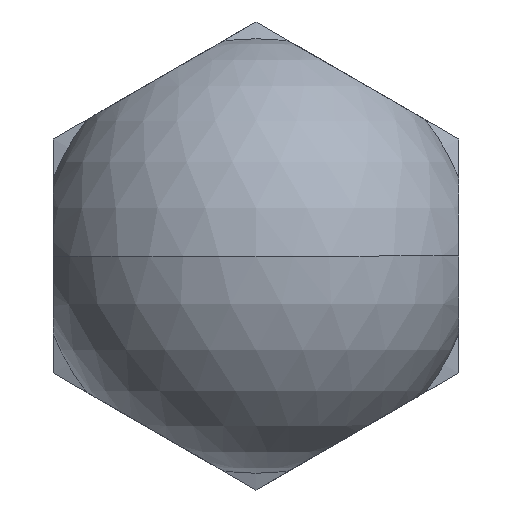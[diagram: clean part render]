
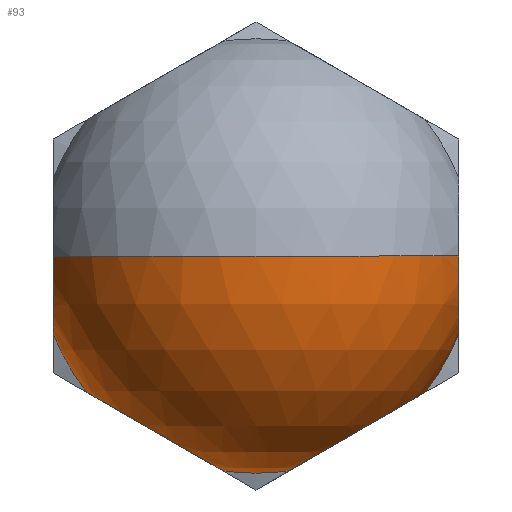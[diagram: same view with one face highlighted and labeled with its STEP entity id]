
A CAD part, front view. The second image highlights one B-rep face of the part: STEP entity #93.
In plain terms, the highlighted spherical face has radius 7.5 mm.
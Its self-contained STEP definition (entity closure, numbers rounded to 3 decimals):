
#93=ADVANCED_FACE('NONE',(#201),#202,.T.);
#201=FACE_OUTER_BOUND('',#323,.T.);
#202=SPHERICAL_SURFACE('',#324,7.5);
#323=EDGE_LOOP('',(#524,#525,#526,#527,#528,#529,#530,#531,#532,#533));
#324=AXIS2_PLACEMENT_3D('',#534,#535,#536);
#524=ORIENTED_EDGE('',*,*,#781,.F.);
#525=ORIENTED_EDGE('',*,*,#814,.T.);
#526=ORIENTED_EDGE('',*,*,#815,.F.);
#527=ORIENTED_EDGE('',*,*,#816,.T.);
#528=ORIENTED_EDGE('',*,*,#761,.T.);
#529=ORIENTED_EDGE('',*,*,#786,.F.);
#530=ORIENTED_EDGE('',*,*,#817,.T.);
#531=ORIENTED_EDGE('',*,*,#784,.F.);
#532=ORIENTED_EDGE('',*,*,#783,.F.);
#533=ORIENTED_EDGE('',*,*,#818,.T.);
#534=CARTESIAN_POINT('',(0.,-14.5,0.0));
#535=DIRECTION('',(0.0,0.0,1.0));
#536=DIRECTION('',(-1.0,0.,0.0));
#761=EDGE_CURVE('NONE',#909,#910,#911,.T.);
#781=EDGE_CURVE('',#942,#943,#944,.T.);
#783=EDGE_CURVE('',#945,#947,#948,.T.);
#784=EDGE_CURVE('',#947,#949,#950,.T.);
#786=EDGE_CURVE('',#951,#910,#953,.T.);
#814=EDGE_CURVE('NONE',#942,#996,#997,.T.);
#815=EDGE_CURVE('NONE',#998,#996,#999,.T.);
#816=EDGE_CURVE('NONE',#998,#909,#1000,.T.);
#817=EDGE_CURVE('NONE',#951,#949,#1001,.T.);
#818=EDGE_CURVE('NONE',#945,#943,#1002,.T.);
#909=VERTEX_POINT('NONE',#1142);
#910=VERTEX_POINT('',#1143);
#911=CIRCLE('',#1144,2.693);
#942=VERTEX_POINT('',#1217);
#943=VERTEX_POINT('NONE',#1218);
#944=CIRCLE('',#1219,7.5);
#945=VERTEX_POINT('NONE',#1220);
#947=VERTEX_POINT('',#1222);
#948=CIRCLE('',#1223,7.5);
#949=VERTEX_POINT('NONE',#1224);
#950=CIRCLE('',#1225,7.5);
#951=VERTEX_POINT('NONE',#1226);
#953=CIRCLE('',#1228,7.5);
#996=VERTEX_POINT('NONE',#1308);
#997=CIRCLE('',#1309,2.693);
#998=VERTEX_POINT('NONE',#1310);
#999=CIRCLE('',#1311,7.5);
#1000=CIRCLE('',#1312,7.5);
#1001=CIRCLE('',#1313,2.693);
#1002=CIRCLE('',#1314,2.693);
#1142=CARTESIAN_POINT('',(-7.0,-17.193,0.));
#1143=CARTESIAN_POINT('',(-7.0,-14.5,-2.693));
#1144=AXIS2_PLACEMENT_3D('',#1432,#1433,#1434);
#1217=CARTESIAN_POINT('',(7.0,-14.5,-2.693));
#1218=CARTESIAN_POINT('',(5.832,-14.5,-4.716));
#1219=AXIS2_PLACEMENT_3D('',#1452,#1453,#1454);
#1220=CARTESIAN_POINT('',(1.168,-14.5,-7.408));
#1222=CARTESIAN_POINT('',(0.,-14.5,-7.5));
#1223=AXIS2_PLACEMENT_3D('',#1458,#1459,#1460);
#1224=CARTESIAN_POINT('',(-1.168,-14.5,-7.408));
#1225=AXIS2_PLACEMENT_3D('',#1461,#1462,#1463);
#1226=CARTESIAN_POINT('',(-5.832,-14.5,-4.716));
#1228=AXIS2_PLACEMENT_3D('',#1467,#1468,#1469);
#1308=CARTESIAN_POINT('',(7.0,-17.193,0.));
#1309=AXIS2_PLACEMENT_3D('',#1506,#1507,#1508);
#1310=CARTESIAN_POINT('',(0.,-22.0,0.0));
#1311=AXIS2_PLACEMENT_3D('',#1509,#1510,#1511);
#1312=AXIS2_PLACEMENT_3D('',#1512,#1513,#1514);
#1313=AXIS2_PLACEMENT_3D('',#1515,#1516,#1517);
#1314=AXIS2_PLACEMENT_3D('',#1518,#1519,#1520);
#1432=CARTESIAN_POINT('',(-7.0,-14.5,0.));
#1433=DIRECTION('',(1.0,0.,0.));
#1434=DIRECTION('',(0.,-1.0,0.0));
#1452=CARTESIAN_POINT('',(0.,-14.5,0.0));
#1453=DIRECTION('',(-0.0,1.0,0.0));
#1454=DIRECTION('',(0.0,0.0,-1.0));
#1458=CARTESIAN_POINT('',(0.,-14.5,0.0));
#1459=DIRECTION('',(-0.0,1.0,0.0));
#1460=DIRECTION('',(0.0,0.0,-1.0));
#1461=CARTESIAN_POINT('',(0.,-14.5,0.0));
#1462=DIRECTION('',(-0.0,1.0,0.0));
#1463=DIRECTION('',(0.0,0.0,-1.0));
#1467=CARTESIAN_POINT('',(0.,-14.5,0.0));
#1468=DIRECTION('',(-0.0,1.0,0.0));
#1469=DIRECTION('',(0.0,0.0,-1.0));
#1506=CARTESIAN_POINT('',(7.0,-14.5,0.));
#1507=DIRECTION('',(-1.0,0.,0.));
#1508=DIRECTION('',(0.,1.0,0.0));
#1509=CARTESIAN_POINT('',(0.,-14.5,0.0));
#1510=DIRECTION('',(0.,0.,1.0));
#1511=DIRECTION('',(1.0,0.0,0.));
#1512=CARTESIAN_POINT('',(0.,-14.5,0.0));
#1513=DIRECTION('',(0.0,0.0,-1.0));
#1514=DIRECTION('',(-1.0,0.0,0.0));
#1515=CARTESIAN_POINT('',(-3.5,-14.5,-6.062));
#1516=DIRECTION('',(0.5,0.,0.866));
#1517=DIRECTION('',(-0.866,0.0,0.5));
#1518=CARTESIAN_POINT('',(3.5,-14.5,-6.062));
#1519=DIRECTION('',(-0.5,0.,0.866));
#1520=DIRECTION('',(-0.866,0.0,-0.5));
